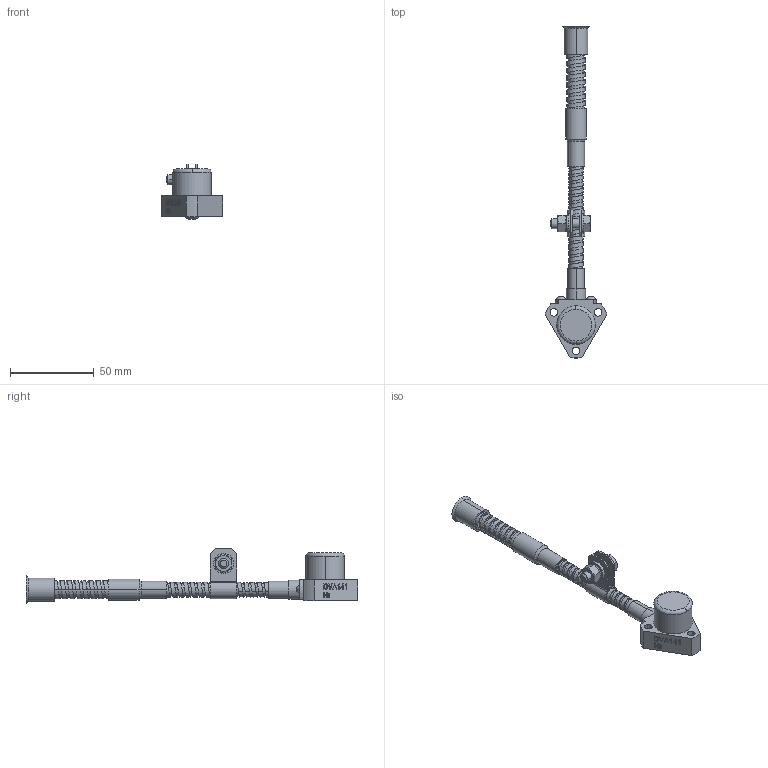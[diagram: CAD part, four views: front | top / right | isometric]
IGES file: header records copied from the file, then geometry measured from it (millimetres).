
Start section: IGES file generated from Kompas 1.2 for Windows drawing by the IGES translator from Ascon Ltd., translator version IGESOUT-5.1.
Global section: file name: C:\Users\AlikinES\Desktop\DVAxx1.104.igs; native system: Kompas( 32 bit ) for Windows; preprocessor: 1.0; author: unknown; organization: unknown; date: -17791121:064859; units: millimetre
Bounding box: 36.94 x 198.27 x 32.9 mm (x, y, z)
Volume: 30822.4 mm3; surface area: 17043.9 mm2
Topology: 1 solids, 1 shells, 467 faces, 1280 edges, 833 vertices
Faces by surface type: revolution 244, bspline 179, extrusion 44
